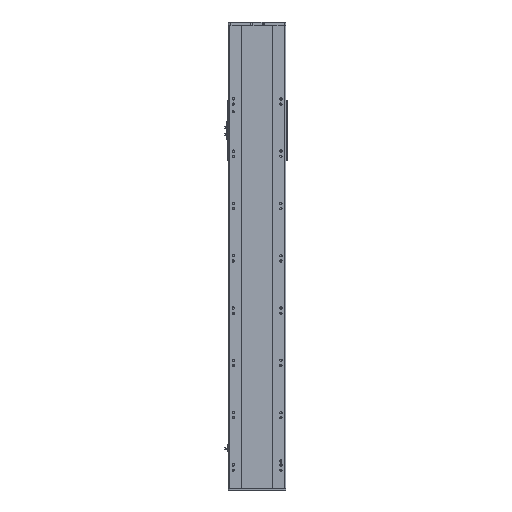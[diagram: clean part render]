
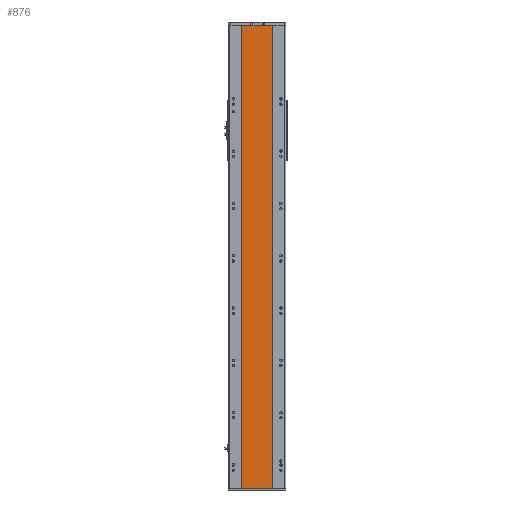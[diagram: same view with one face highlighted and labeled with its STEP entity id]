
A CAD part, front view. The second image highlights one B-rep face of the part: STEP entity #876.
In plain terms, the highlighted planar face has unit normal (0, -1, 0).
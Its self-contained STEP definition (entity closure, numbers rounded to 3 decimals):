
#876 = ADVANCED_FACE ( 'NONE', ( #25072 ), #19543, .F. ) ;
#2727 = EDGE_CURVE ( 'NONE', #28399, #14294, #12918, .T. ) ;
#3177 = LINE ( 'NONE', #35695, #21589 ) ;
#4321 = CARTESIAN_POINT ( 'NONE',  ( -59., 1., 885.5 ) ) ;
#7551 = CARTESIAN_POINT ( 'NONE',  ( 59., 1., -885.5 ) ) ;
#9237 = EDGE_LOOP ( 'NONE', ( #27155, #18333, #26242, #24606 ) ) ;
#9601 = DIRECTION ( 'NONE',  ( 1., 0., 0. ) ) ;
#10145 = CARTESIAN_POINT ( 'NONE',  ( -59., 1., -885.5 ) ) ;
#10950 = VECTOR ( 'NONE', #9601, 1000. ) ;
#12153 = VERTEX_POINT ( 'NONE', #7551 ) ;
#12918 = LINE ( 'NONE', #27847, #10950 ) ;
#13055 = DIRECTION ( 'NONE',  ( -1., 0., 0. ) ) ;
#13157 = CARTESIAN_POINT ( 'NONE',  ( -59., 1., -885.5 ) ) ;
#13655 = CARTESIAN_POINT ( 'NONE',  ( 59., 1., 885.5 ) ) ;
#14294 = VERTEX_POINT ( 'NONE', #17468 ) ;
#16247 = DIRECTION ( 'NONE',  ( 0., 1., 0. ) ) ;
#17161 = EDGE_CURVE ( 'NONE', #28399, #34984, #3177, .T. ) ;
#17468 = CARTESIAN_POINT ( 'NONE',  ( 59., 1., 885.5 ) ) ;
#18025 = DIRECTION ( 'NONE',  ( 0., 0., -1. ) ) ;
#18333 = ORIENTED_EDGE ( 'NONE', *, *, #19078, .F. ) ;
#18463 = AXIS2_PLACEMENT_3D ( 'NONE', #4321, #16247, #13055 ) ;
#19078 = EDGE_CURVE ( 'NONE', #14294, #12153, #36103, .T. ) ;
#19496 = CARTESIAN_POINT ( 'NONE',  ( -59., 1., 885.5 ) ) ;
#19543 = PLANE ( 'NONE',  #18463 ) ;
#21589 = VECTOR ( 'NONE', #18025, 1000. ) ;
#24606 = ORIENTED_EDGE ( 'NONE', *, *, #17161, .T. ) ;
#25072 = FACE_OUTER_BOUND ( 'NONE', #9237, .T. ) ;
#26242 = ORIENTED_EDGE ( 'NONE', *, *, #2727, .F. ) ;
#27102 = VECTOR ( 'NONE', #37810, 1000. ) ;
#27155 = ORIENTED_EDGE ( 'NONE', *, *, #35620, .T. ) ;
#27847 = CARTESIAN_POINT ( 'NONE',  ( -59., 1., 885.5 ) ) ;
#28110 = VECTOR ( 'NONE', #31083, 1000. ) ;
#28399 = VERTEX_POINT ( 'NONE', #19496 ) ;
#29979 = LINE ( 'NONE', #13157, #28110 ) ;
#31083 = DIRECTION ( 'NONE',  ( 1., 0., 0. ) ) ;
#34984 = VERTEX_POINT ( 'NONE', #10145 ) ;
#35620 = EDGE_CURVE ( 'NONE', #34984, #12153, #29979, .T. ) ;
#35695 = CARTESIAN_POINT ( 'NONE',  ( -59., 1., 885.5 ) ) ;
#36103 = LINE ( 'NONE', #13655, #27102 ) ;
#37810 = DIRECTION ( 'NONE',  ( 0., 0., -1. ) ) ;
